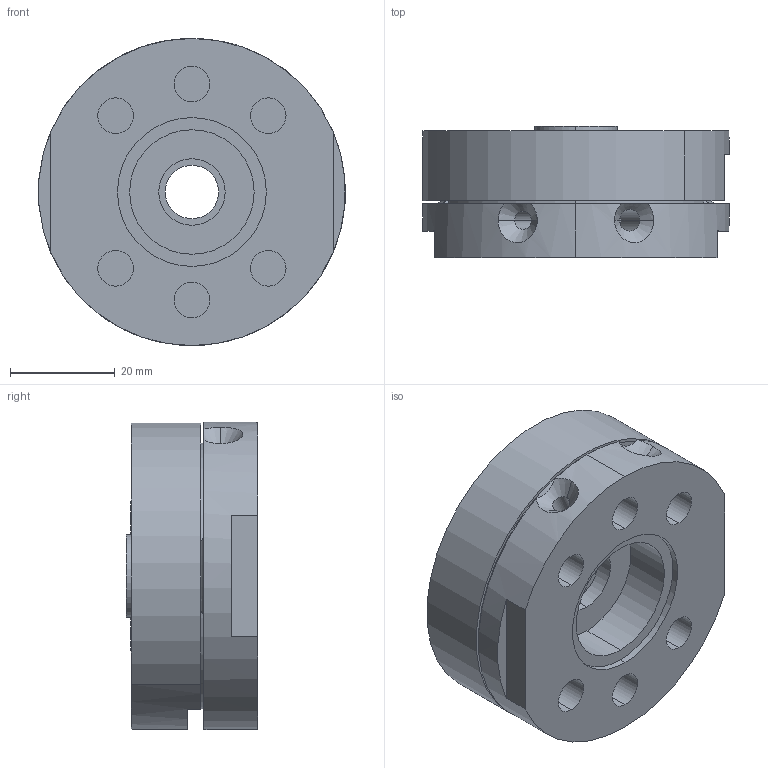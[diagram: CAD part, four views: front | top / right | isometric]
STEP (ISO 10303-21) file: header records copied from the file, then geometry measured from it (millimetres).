
FILE_DESCRIPTION (( 'STEP AP214' ), '1' );
FILE_NAME ('1007053.STEP', '2016-11-15T15:27:02', ( '' ), ( '' ), 'SwSTEP 2.0', 'SolidWorks 2014', '' );
FILE_SCHEMA (( 'AUTOMOTIVE_DESIGN' ));
Length unit declared in the file: inch
Products named in the file (1): 1007053
Bounding box: 58.59 x 25.15 x 58.72 mm (x, y, z)
Volume: 47912.9 mm3; surface area: 20247.3 mm2
Topology: 1 solids, 5 shells, 191 faces, 449 edges, 277 vertices
Faces by surface type: plane 70, cylinder 67, cone 43, torus 11
Entity records: 6096 total; most frequent: CARTESIAN_POINT 1545, DIRECTION 958, ORIENTED_EDGE 894, EDGE_CURVE 447, AXIS2_PLACEMENT_3D 410, VERTEX_POINT 277, CIRCLE 218, EDGE_LOOP 212
